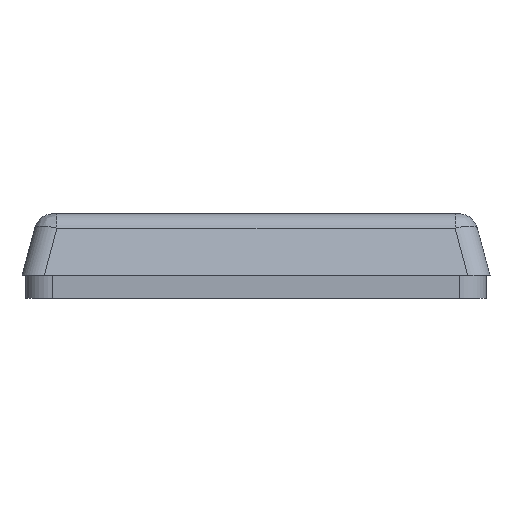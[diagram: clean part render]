
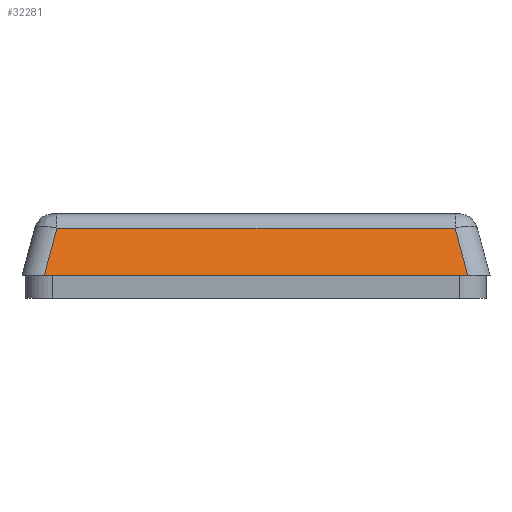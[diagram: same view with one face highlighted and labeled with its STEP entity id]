
A CAD part, left-side view. The second image highlights one B-rep face of the part: STEP entity #32281.
In plain terms, the highlighted planar face has unit normal (-0.966, 0, 0.259).
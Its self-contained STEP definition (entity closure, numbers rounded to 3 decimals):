
#1475=PLANE('',#35373);
#3789=LINE('',#55225,#6460);
#3798=LINE('',#55312,#6469);
#3800=LINE('',#55345,#6471);
#3801=LINE('',#55347,#6472);
#6460=VECTOR('',#43438,10.);
#6469=VECTOR('',#43479,10.);
#6471=VECTOR('',#43491,10.);
#6472=VECTOR('',#43494,10.);
#9559=FACE_OUTER_BOUND('',#11678,.T.);
#11678=EDGE_LOOP('',(#28319,#28320,#28321,#28322));
#16073=VERTEX_POINT('',#55222);
#16074=VERTEX_POINT('',#55224);
#16085=VERTEX_POINT('',#55305);
#16087=VERTEX_POINT('',#55341);
#20310=EDGE_CURVE('',#16073,#16074,#3789,.T.);
#20331=EDGE_CURVE('',#16085,#16073,#3798,.T.);
#20335=EDGE_CURVE('',#16074,#16087,#3800,.T.);
#20336=EDGE_CURVE('',#16087,#16085,#3801,.T.);
#28319=ORIENTED_EDGE('',*,*,#20331,.F.);
#28320=ORIENTED_EDGE('',*,*,#20336,.F.);
#28321=ORIENTED_EDGE('',*,*,#20335,.F.);
#28322=ORIENTED_EDGE('',*,*,#20310,.F.);
#32281=ADVANCED_FACE('',(#9559),#1475,.F.);
#35373=AXIS2_PLACEMENT_3D('',#55348,#43495,#43496);
#43438=DIRECTION('',(0.,1.,0.));
#43479=DIRECTION('',(-0.251,-0.251,-0.935));
#43491=DIRECTION('',(0.251,-0.251,0.935));
#43494=DIRECTION('',(0.,-1.,0.));
#43495=DIRECTION('center_axis',(0.966,0.,-0.259));
#43496=DIRECTION('ref_axis',(-0.259,0.,-0.966));
#55222=CARTESIAN_POINT('',(-61.5,-27.602,-4.));
#55224=CARTESIAN_POINT('',(-61.5,27.602,-4.));
#55225=CARTESIAN_POINT('',(-61.5,15.25,-4.));
#55305=CARTESIAN_POINT('',(-59.853,-25.955,2.147));
#55312=CARTESIAN_POINT('',(-58.223,-24.326,8.228));
#55341=CARTESIAN_POINT('',(-59.853,25.955,2.147));
#55345=CARTESIAN_POINT('',(-56.277,22.379,15.492));
#55347=CARTESIAN_POINT('',(-59.853,30.5,2.147));
#55348=CARTESIAN_POINT('Origin',(-59.853,30.5,2.147));
